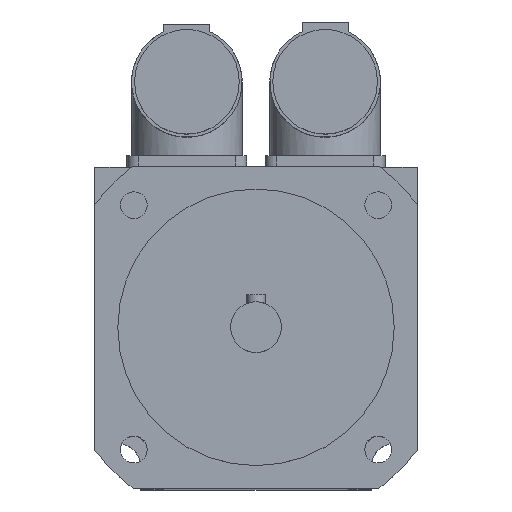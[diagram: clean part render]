
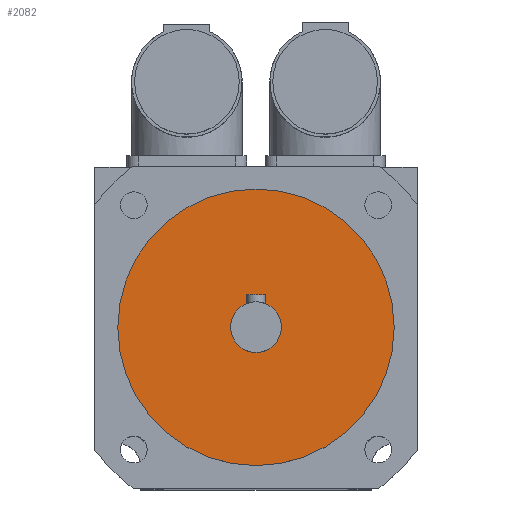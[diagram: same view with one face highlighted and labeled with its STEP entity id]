
A CAD part, top view. The second image highlights one B-rep face of the part: STEP entity #2082.
In plain terms, the highlighted planar face has unit normal (0, 0, 1).
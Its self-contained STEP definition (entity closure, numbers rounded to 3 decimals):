
#36=FACE_BOUND('',#359,.T.);
#61=CIRCLE('',#2206,5.5);
#62=CIRCLE('',#2209,30.);
#234=FACE_OUTER_BOUND('',#358,.T.);
#358=EDGE_LOOP('',(#1420));
#359=EDGE_LOOP('',(#1421));
#878=VERTEX_POINT('',#3179);
#879=VERTEX_POINT('',#3183);
#1092=EDGE_CURVE('',#878,#878,#61,.T.);
#1093=EDGE_CURVE('',#879,#879,#62,.T.);
#1420=ORIENTED_EDGE('',*,*,#1093,.T.);
#1421=ORIENTED_EDGE('',*,*,#1092,.T.);
#2019=PLANE('',#2211);
#2082=ADVANCED_FACE('',(#234,#36),#2019,.T.);
#2206=AXIS2_PLACEMENT_3D('',#3180,#2468,#2469);
#2209=AXIS2_PLACEMENT_3D('',#3184,#2474,#2475);
#2211=AXIS2_PLACEMENT_3D('',#3187,#2478,#2479);
#2468=DIRECTION('center_axis',(0.,0.,-1.));
#2469=DIRECTION('ref_axis',(-1.,0.,0.));
#2474=DIRECTION('center_axis',(0.,0.,1.));
#2475=DIRECTION('ref_axis',(-1.,0.,0.));
#2478=DIRECTION('center_axis',(0.,0.,1.));
#2479=DIRECTION('ref_axis',(1.,0.,0.));
#3179=CARTESIAN_POINT('',(5.5,0.,158.));
#3180=CARTESIAN_POINT('Origin',(0.,0.,158.));
#3183=CARTESIAN_POINT('',(30.,0.,158.));
#3184=CARTESIAN_POINT('Origin',(0.,0.,158.));
#3187=CARTESIAN_POINT('Origin',(0.,0.,
158.));
